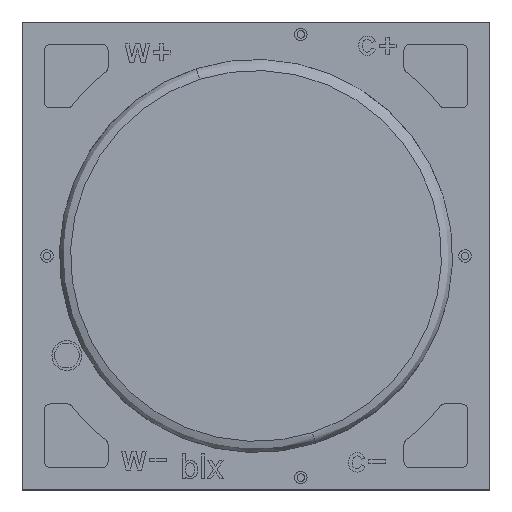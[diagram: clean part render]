
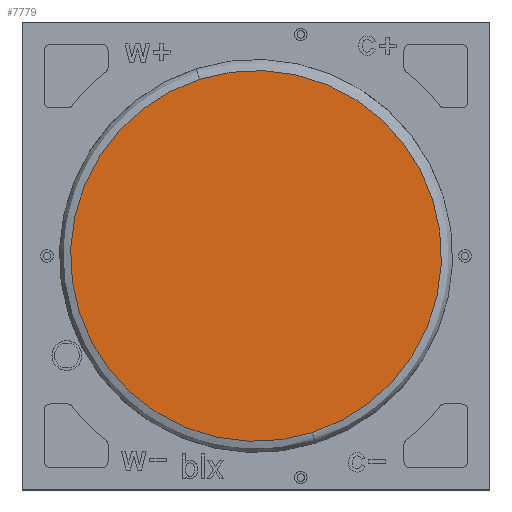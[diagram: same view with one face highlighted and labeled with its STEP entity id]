
A CAD part, top view. The second image highlights one B-rep face of the part: STEP entity #7779.
In plain terms, the highlighted planar face has unit normal (0, 0, 1).
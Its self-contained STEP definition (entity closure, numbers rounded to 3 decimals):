
#103 = PLANE ( 'NONE',  #1670 ) ;
#396 = EDGE_CURVE ( 'NONE', #6336, #1279, #6769, .T. ) ;
#516 = CARTESIAN_POINT ( 'NONE',  ( -2.356, 0.667, 19.95 ) ) ;
#647 = DIRECTION ( 'NONE',  ( 0., 0., -1. ) ) ;
#728 = CARTESIAN_POINT ( 'NONE',  ( -0.087, -6.429, 19.95 ) ) ;
#904 = AXIS2_PLACEMENT_3D ( 'NONE', #516, #7942, #1579 ) ;
#1279 = VERTEX_POINT ( 'NONE', #12577 ) ;
#1579 = DIRECTION ( 'NONE',  ( -0.952, -0.305, 0. ) ) ;
#1670 = AXIS2_PLACEMENT_3D ( 'NONE', #4365, #11773, #5423 ) ;
#3104 = ORIENTED_EDGE ( 'NONE', *, *, #6270, .F. ) ;
#4365 = CARTESIAN_POINT ( 'NONE',  ( -2.356, 0.667, 19.95 ) ) ;
#4727 = AXIS2_PLACEMENT_3D ( 'NONE', #6989, #647, #8070 ) ;
#5423 = DIRECTION ( 'NONE',  ( 0.952, 0.305, 0. ) ) ;
#6270 = EDGE_CURVE ( 'NONE', #1279, #6336, #11527, .T. ) ;
#6336 = VERTEX_POINT ( 'NONE', #728 ) ;
#6769 = CIRCLE ( 'NONE', #904, 7.45 ) ;
#6894 = ORIENTED_EDGE ( 'NONE', *, *, #396, .F. ) ;
#6989 = CARTESIAN_POINT ( 'NONE',  ( -2.356, 0.667, 19.95 ) ) ;
#7779 = ADVANCED_FACE ( 'NONE', ( #12287 ), #103, .T. ) ;
#7942 = DIRECTION ( 'NONE',  ( 0., 0., -1. ) ) ;
#8070 = DIRECTION ( 'NONE',  ( -0.952, -0.305, 0. ) ) ;
#8176 = EDGE_LOOP ( 'NONE', ( #6894, #3104 ) ) ;
#11527 = CIRCLE ( 'NONE', #4727, 7.45 ) ;
#11773 = DIRECTION ( 'NONE',  ( 0., 0., 1. ) ) ;
#12287 = FACE_OUTER_BOUND ( 'NONE', #8176, .T. ) ;
#12577 = CARTESIAN_POINT ( 'NONE',  ( -4.625, 7.763, 19.95 ) ) ;
